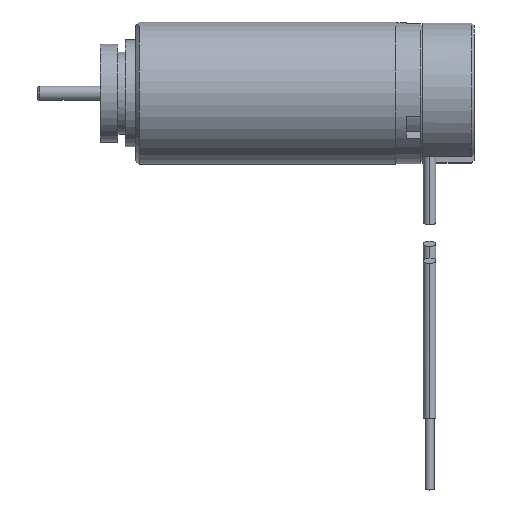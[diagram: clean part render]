
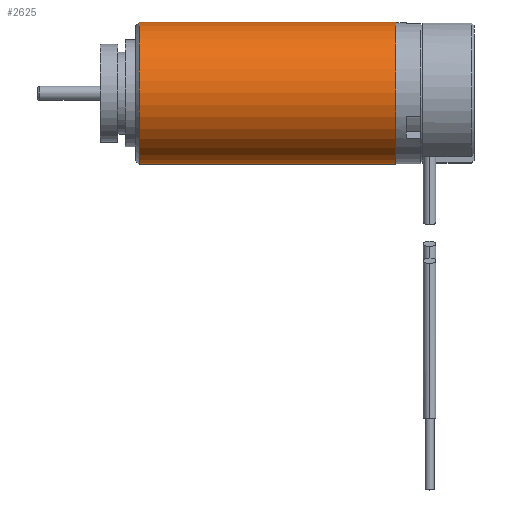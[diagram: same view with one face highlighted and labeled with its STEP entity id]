
A CAD part, top view. The second image highlights one B-rep face of the part: STEP entity #2625.
In plain terms, the highlighted cylindrical face has radius 4 mm (diameter 8 mm), a partial arc.
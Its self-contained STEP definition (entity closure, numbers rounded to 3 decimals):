
#1108=DIRECTION('',(-1.,0.,0.));
#1109=VECTOR('',#1108,14.4);
#1110=CARTESIAN_POINT('',(14.6,-4.,0.));
#1111=LINE('',#1110,#1109);
#1123=DIRECTION('',(-1.,0.,0.));
#1124=VECTOR('',#1123,14.4);
#1125=CARTESIAN_POINT('',(14.6,4.,0.));
#1126=LINE('',#1125,#1124);
#1160=CARTESIAN_POINT('',(0.2,0.,0.));
#1161=DIRECTION('',(-1.,0.,0.));
#1162=DIRECTION('',(0.,-1.,0.));
#1163=AXIS2_PLACEMENT_3D('',#1160,#1161,#1162);
#1168=CARTESIAN_POINT('',(14.6,0.,0.));
#1169=DIRECTION('',(1.,0.,0.));
#1170=DIRECTION('',(0.,1.,0.));
#1171=AXIS2_PLACEMENT_3D('',#1168,#1169,#1170);
#1712=CARTESIAN_POINT('',(14.6,4.,0.));
#1713=CARTESIAN_POINT('',(14.6,-4.,0.));
#1714=VERTEX_POINT('',#1712);
#1715=VERTEX_POINT('',#1713);
#1720=CARTESIAN_POINT('',(0.2,-4.,0.));
#1721=CARTESIAN_POINT('',(0.2,4.,0.));
#1722=VERTEX_POINT('',#1720);
#1723=VERTEX_POINT('',#1721);
#2614=CARTESIAN_POINT('',(-3.05,0.,0.));
#2615=DIRECTION('',(1.,0.,0.));
#2616=DIRECTION('',(0.,-1.,0.));
#2617=AXIS2_PLACEMENT_3D('',#2614,#2615,#2616);
#2618=CYLINDRICAL_SURFACE('',#2617,4.);
#2619=ORIENTED_EDGE('',*,*,#2608,.T.);
#2620=ORIENTED_EDGE('',*,*,#2564,.F.);
#2621=ORIENTED_EDGE('',*,*,#2545,.T.);
#2622=ORIENTED_EDGE('',*,*,#2561,.T.);
#2623=EDGE_LOOP('',(#2619,#2620,#2621,#2622));
#2624=FACE_OUTER_BOUND('',#2623,.F.);
#2625=ADVANCED_FACE('',(#2624),#2618,.T.);
#1164=CIRCLE('',#1163,4.);
#1172=CIRCLE('',#1171,4.);
#2545=EDGE_CURVE('',#1714,#1715,#1172,.T.);
#2561=EDGE_CURVE('',#1715,#1722,#1111,.T.);
#2564=EDGE_CURVE('',#1714,#1723,#1126,.T.);
#2608=EDGE_CURVE('',#1722,#1723,#1164,.T.);
